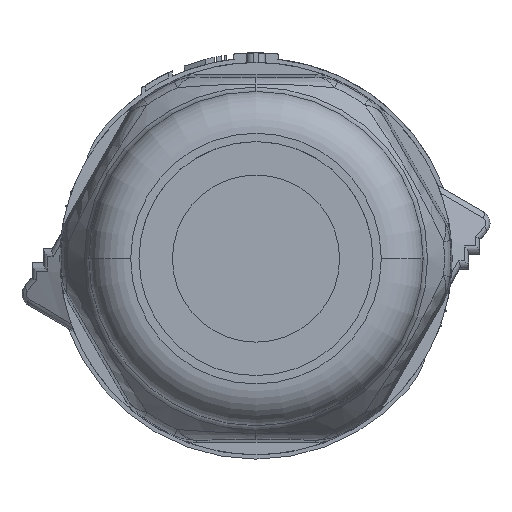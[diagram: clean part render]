
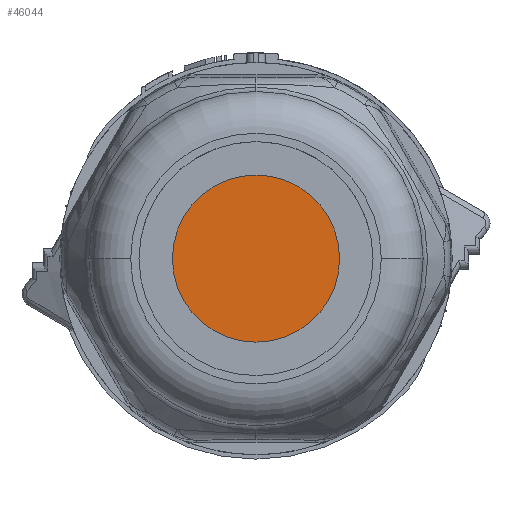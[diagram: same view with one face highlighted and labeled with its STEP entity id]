
A CAD part, front view. The second image highlights one B-rep face of the part: STEP entity #46044.
In plain terms, the highlighted planar face has unit normal (0, -1, 0).
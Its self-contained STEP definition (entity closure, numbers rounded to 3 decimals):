
#16816=CARTESIAN_POINT('',(0.,-3.89,0.));
#16817=DIRECTION('',(0.,1.,0.));
#16818=DIRECTION('',(0.,0.,1.));
#16819=AXIS2_PLACEMENT_3D('',#16816,#16817,#16818);
#16821=CARTESIAN_POINT('',(0.,-3.89,0.));
#16822=DIRECTION('',(0.,1.,0.));
#16823=DIRECTION('',(0.,0.,-1.));
#16824=AXIS2_PLACEMENT_3D('',#16821,#16822,#16823);
#34815=CARTESIAN_POINT('',(0.,-3.89,6.5));
#34816=CARTESIAN_POINT('',(0.,-3.89,-6.5));
#34817=VERTEX_POINT('',#34815);
#34818=VERTEX_POINT('',#34816);
#46034=CARTESIAN_POINT('',(0.,-3.89,0.));
#46035=DIRECTION('',(0.,1.,0.));
#46036=DIRECTION('',(1.,0.,0.));
#46037=AXIS2_PLACEMENT_3D('',#46034,#46035,#46036);
#46038=PLANE('',#46037);
#46039=ORIENTED_EDGE('',*,*,#46024,.T.);
#46041=ORIENTED_EDGE('',*,*,#46040,.T.);
#46042=EDGE_LOOP('',(#46039,#46041));
#46043=FACE_OUTER_BOUND('',#46042,.F.);
#46044=ADVANCED_FACE('',(#46043),#46038,.F.);
#16820=CIRCLE('',#16819,6.5);
#16825=CIRCLE('',#16824,6.5);
#46024=EDGE_CURVE('',#34817,#34818,#16820,.T.);
#46040=EDGE_CURVE('',#34818,#34817,#16825,.T.);
